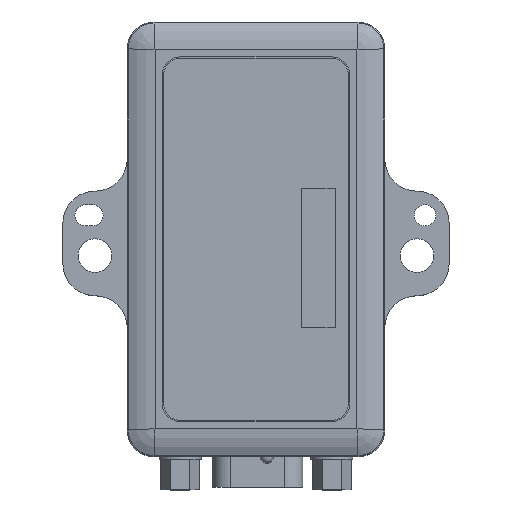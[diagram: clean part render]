
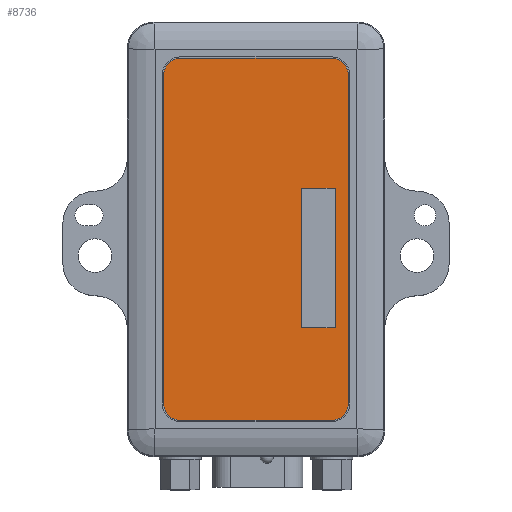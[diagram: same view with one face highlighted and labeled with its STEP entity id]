
A CAD part, top view. The second image highlights one B-rep face of the part: STEP entity #8736.
In plain terms, the highlighted planar face has unit normal (0, 0, 1) as drawn and (0, 1, 0) by its records, which use the part's own axes.
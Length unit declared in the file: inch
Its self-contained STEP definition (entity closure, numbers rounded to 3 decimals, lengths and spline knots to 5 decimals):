
#613=FACE_BOUND('',#2170,.T.);
#956=CIRCLE('',#9500,0.065);
#958=CIRCLE('',#9504,0.065);
#960=CIRCLE('',#9508,0.065);
#962=CIRCLE('',#9512,0.065);
#1633=FACE_OUTER_BOUND('',#2169,.T.);
#2169=EDGE_LOOP('',(#7267,#7268,#7269,#7270,#7271,#7272,#7273,#7274));
#2170=EDGE_LOOP('',(#7275,#7276,#7277,#7278));
#2846=LINE('',#17031,#3391);
#2849=LINE('',#17037,#3394);
#2852=LINE('',#17043,#3397);
#2855=LINE('',#17047,#3400);
#2859=LINE('',#17061,#3404);
#2863=LINE('',#17073,#3408);
#2867=LINE('',#17085,#3412);
#2871=LINE('',#17095,#3416);
#3391=VECTOR('',#11237,0.3937);
#3394=VECTOR('',#11242,0.3937);
#3397=VECTOR('',#11247,0.3937);
#3400=VECTOR('',#11252,0.3937);
#3404=VECTOR('',#11264,0.3937);
#3408=VECTOR('',#11276,0.3937);
#3412=VECTOR('',#11288,0.3937);
#3416=VECTOR('',#11300,0.3937);
#4101=VERTEX_POINT('',#17028);
#4102=VERTEX_POINT('',#17030);
#4104=VERTEX_POINT('',#17036);
#4106=VERTEX_POINT('',#17042);
#4109=VERTEX_POINT('',#17052);
#4110=VERTEX_POINT('',#17054);
#4112=VERTEX_POINT('',#17060);
#4114=VERTEX_POINT('',#17066);
#4116=VERTEX_POINT('',#17072);
#4118=VERTEX_POINT('',#17078);
#4120=VERTEX_POINT('',#17084);
#4122=VERTEX_POINT('',#17090);
#5233=EDGE_CURVE('',#4102,#4101,#2846,.T.);
#5236=EDGE_CURVE('',#4104,#4102,#2849,.T.);
#5239=EDGE_CURVE('',#4106,#4104,#2852,.T.);
#5242=EDGE_CURVE('',#4101,#4106,#2855,.T.);
#5245=EDGE_CURVE('',#4110,#4109,#956,.T.);
#5248=EDGE_CURVE('',#4112,#4110,#2859,.T.);
#5251=EDGE_CURVE('',#4114,#4112,#958,.T.);
#5254=EDGE_CURVE('',#4116,#4114,#2863,.T.);
#5257=EDGE_CURVE('',#4118,#4116,#960,.T.);
#5260=EDGE_CURVE('',#4120,#4118,#2867,.T.);
#5263=EDGE_CURVE('',#4122,#4120,#962,.T.);
#5266=EDGE_CURVE('',#4109,#4122,#2871,.T.);
#7267=ORIENTED_EDGE('',*,*,#5266,.T.);
#7268=ORIENTED_EDGE('',*,*,#5263,.T.);
#7269=ORIENTED_EDGE('',*,*,#5260,.T.);
#7270=ORIENTED_EDGE('',*,*,#5257,.T.);
#7271=ORIENTED_EDGE('',*,*,#5254,.T.);
#7272=ORIENTED_EDGE('',*,*,#5251,.T.);
#7273=ORIENTED_EDGE('',*,*,#5248,.T.);
#7274=ORIENTED_EDGE('',*,*,#5245,.T.);
#7275=ORIENTED_EDGE('',*,*,#5239,.T.);
#7276=ORIENTED_EDGE('',*,*,#5236,.T.);
#7277=ORIENTED_EDGE('',*,*,#5233,.T.);
#7278=ORIENTED_EDGE('',*,*,#5242,.T.);
#8401=PLANE('',#9514);
#8736=ADVANCED_FACE('',(#1633,#613),#8401,.T.);
#9500=AXIS2_PLACEMENT_3D('',#17055,#11258,#11259);
#9504=AXIS2_PLACEMENT_3D('',#17067,#11270,#11271);
#9508=AXIS2_PLACEMENT_3D('',#17079,#11282,#11283);
#9512=AXIS2_PLACEMENT_3D('',#17091,#11294,#11295);
#9514=AXIS2_PLACEMENT_3D('',#17096,#11301,#11302);
#11237=DIRECTION('',(0.,0.,1.));
#11242=DIRECTION('',(1.,0.,0.));
#11247=DIRECTION('',(0.,0.,-1.));
#11252=DIRECTION('',(-1.,0.,0.));
#11258=DIRECTION('center_axis',(0.,1.,0.));
#11259=DIRECTION('ref_axis',(0.,0.,1.));
#11264=DIRECTION('',(1.,0.,0.));
#11270=DIRECTION('center_axis',(0.,1.,0.));
#11271=DIRECTION('ref_axis',(-1.,0.,0.));
#11276=DIRECTION('',(0.,0.,1.));
#11282=DIRECTION('center_axis',(0.,1.,0.));
#11283=DIRECTION('ref_axis',(0.,0.,-1.));
#11288=DIRECTION('',(-1.,0.,0.));
#11294=DIRECTION('center_axis',(0.,1.,0.));
#11295=DIRECTION('ref_axis',(1.,0.,0.));
#11300=DIRECTION('',(0.,0.,-1.));
#11301=DIRECTION('center_axis',(0.,1.,0.));
#11302=DIRECTION('ref_axis',(0.,0.,1.));
#17028=CARTESIAN_POINT('',(0.295,0.01,0.33));
#17030=CARTESIAN_POINT('',(0.295,0.01,-0.19));
#17031=CARTESIAN_POINT('',(0.295,0.01,-0.095));
#17036=CARTESIAN_POINT('',(0.17,0.01,-0.19));
#17037=CARTESIAN_POINT('',(0.085,0.01,-0.19));
#17042=CARTESIAN_POINT('',(0.17,0.01,0.33));
#17043=CARTESIAN_POINT('',(0.17,0.01,0.165));
#17047=CARTESIAN_POINT('',(0.1475,0.01,0.33));
#17052=CARTESIAN_POINT('',(0.345,0.01,0.61));
#17054=CARTESIAN_POINT('',(0.28,0.01,0.675));
#17055=CARTESIAN_POINT('Origin',(0.28,0.01,0.61));
#17060=CARTESIAN_POINT('',(-0.28,0.01,0.675));
#17061=CARTESIAN_POINT('',(-0.28,0.01,0.675));
#17066=CARTESIAN_POINT('',(-0.345,0.01,0.61));
#17067=CARTESIAN_POINT('Origin',(-0.28,0.01,0.61));
#17072=CARTESIAN_POINT('',(-0.345,0.01,-0.61));
#17073=CARTESIAN_POINT('',(-0.345,0.01,-0.61));
#17078=CARTESIAN_POINT('',(-0.28,0.01,-0.675));
#17079=CARTESIAN_POINT('Origin',(-0.28,0.01,-0.61));
#17084=CARTESIAN_POINT('',(0.28,0.01,-0.675));
#17085=CARTESIAN_POINT('',(0.28,0.01,-0.675));
#17090=CARTESIAN_POINT('',(0.345,0.01,-0.61));
#17091=CARTESIAN_POINT('Origin',(0.28,0.01,-0.61));
#17095=CARTESIAN_POINT('',(0.345,0.01,0.61));
#17096=CARTESIAN_POINT('Origin',(0.,0.01,0.));
